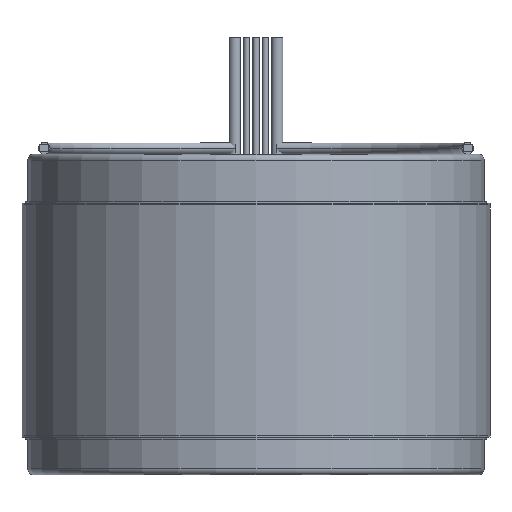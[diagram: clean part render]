
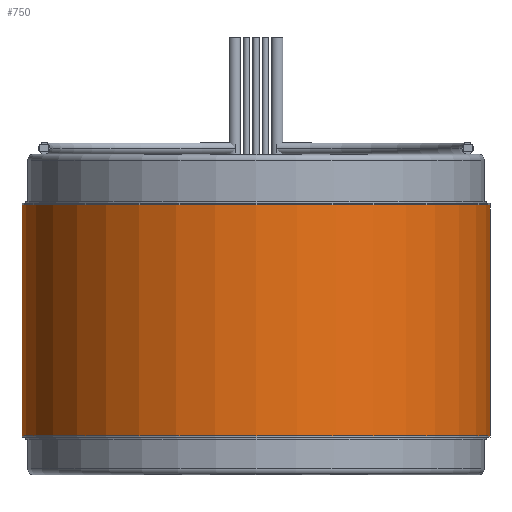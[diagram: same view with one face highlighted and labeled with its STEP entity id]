
A CAD part, front view. The second image highlights one B-rep face of the part: STEP entity #750.
In plain terms, the highlighted cylindrical face has radius 50.8 mm (diameter 101.6 mm), a partial arc.
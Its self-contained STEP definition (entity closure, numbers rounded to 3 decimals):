
#187 = VERTEX_POINT ( 'NONE', #338 ) ;
#267 = ORIENTED_EDGE ( 'NONE', *, *, #2757, .F. ) ;
#336 = VECTOR ( 'NONE', #3224, 1000. ) ;
#338 = CARTESIAN_POINT ( 'NONE',  ( -50.8, 0., -25.044 ) ) ;
#426 = CARTESIAN_POINT ( 'NONE',  ( -50.8, 0., 25.044 ) ) ;
#446 = EDGE_LOOP ( 'NONE', ( #2951, #267, #2682, #1639 ) ) ;
#584 = CARTESIAN_POINT ( 'NONE',  ( 50.8, 0., 25.044 ) ) ;
#643 = DIRECTION ( 'NONE',  ( 0., 0., -1. ) ) ;
#717 = DIRECTION ( 'NONE',  ( 1., 0., 0. ) ) ;
#750 = ADVANCED_FACE ( 'NONE', ( #3027 ), #1498, .T. ) ;
#906 = CIRCLE ( 'NONE', #1161, 50.8 ) ;
#1161 = AXIS2_PLACEMENT_3D ( 'NONE', #2862, #3314, #3113 ) ;
#1310 = VECTOR ( 'NONE', #643, 1000. ) ;
#1369 = VERTEX_POINT ( 'NONE', #2457 ) ;
#1386 = CARTESIAN_POINT ( 'NONE',  ( -50.8, 0., 25.044 ) ) ;
#1430 = VERTEX_POINT ( 'NONE', #2549 ) ;
#1498 = CYLINDRICAL_SURFACE ( 'NONE', #2726, 50.8 ) ;
#1639 = ORIENTED_EDGE ( 'NONE', *, *, #1841, .T. ) ;
#1841 = EDGE_CURVE ( 'NONE', #187, #1430, #2485, .T. ) ;
#1941 = DIRECTION ( 'NONE',  ( -1., 0., 0. ) ) ;
#1998 = AXIS2_PLACEMENT_3D ( 'NONE', #2562, #2035, #717 ) ;
#2035 = DIRECTION ( 'NONE',  ( 0., 0., 1. ) ) ;
#2211 = LINE ( 'NONE', #1386, #1310 ) ;
#2457 = CARTESIAN_POINT ( 'NONE',  ( 50.8, 0., 25.044 ) ) ;
#2485 = CIRCLE ( 'NONE', #1998, 50.8 ) ;
#2549 = CARTESIAN_POINT ( 'NONE',  ( 50.8, 0., -25.044 ) ) ;
#2562 = CARTESIAN_POINT ( 'NONE',  ( 0., 0., -25.044 ) ) ;
#2667 = LINE ( 'NONE', #584, #336 ) ;
#2682 = ORIENTED_EDGE ( 'NONE', *, *, #2892, .T. ) ;
#2726 = AXIS2_PLACEMENT_3D ( 'NONE', #3273, #3008, #1941 ) ;
#2757 = EDGE_CURVE ( 'NONE', #3020, #1369, #906, .T. ) ;
#2862 = CARTESIAN_POINT ( 'NONE',  ( 0., 0., 25.044 ) ) ;
#2881 = EDGE_CURVE ( 'NONE', #1369, #1430, #2667, .T. ) ;
#2892 = EDGE_CURVE ( 'NONE', #3020, #187, #2211, .T. ) ;
#2951 = ORIENTED_EDGE ( 'NONE', *, *, #2881, .F. ) ;
#3008 = DIRECTION ( 'NONE',  ( 0., 0., -1. ) ) ;
#3020 = VERTEX_POINT ( 'NONE', #426 ) ;
#3027 = FACE_OUTER_BOUND ( 'NONE', #446, .T. ) ;
#3113 = DIRECTION ( 'NONE',  ( 1., 0., 0. ) ) ;
#3224 = DIRECTION ( 'NONE',  ( 0., 0., -1. ) ) ;
#3273 = CARTESIAN_POINT ( 'NONE',  ( 0., 0., 25.044 ) ) ;
#3314 = DIRECTION ( 'NONE',  ( 0., 0., 1. ) ) ;
